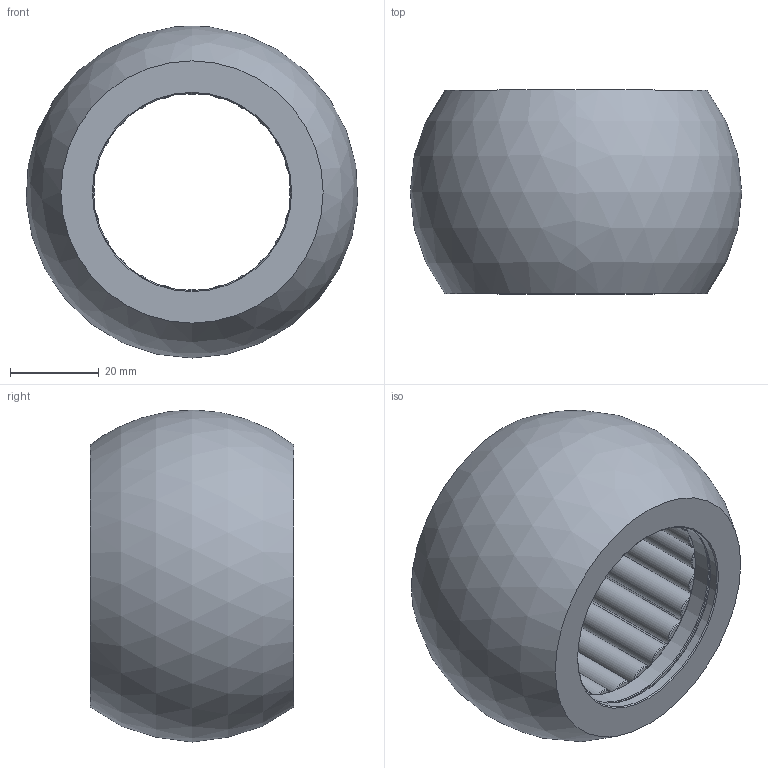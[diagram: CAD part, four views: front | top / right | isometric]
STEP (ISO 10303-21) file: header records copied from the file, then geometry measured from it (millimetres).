
FILE_DESCRIPTION(('STEP AP214'),'1');
FILE_NAME('C:/Projets/Serie 15.xx.xx/15.xx.44.step','2011-11-14T14:43:21',(' '),(' '),'Spatial InterOp 3D',' ',' ');
FILE_SCHEMA(('automotive_design'));
Length unit declared in the file: metre
Products named in the file (28): frette; rotule; @7679; @7684
Bounding box: 74.89 x 46 x 75 mm (x, y, z)
Volume: 95719.4 mm3; surface area: 60558.3 mm2
Topology: 28 solids, 28 shells, 350 faces, 662 edges, 420 vertices
Faces by surface type: cylinder 131, cone 110, plane 108, sphere 1
Full cylindrical faces by diameter (mm): 2.8 x48, 3.5 x48, 6 x24, 44.5 x2, 44.9 x2, 55.1 x2, 56 x3, 61 x2
Entity records: 10673 total; most frequent: DIRECTION 1504, CARTESIAN_POINT 1126, AXIS2_PLACEMENT_3D 752, EDGE_LOOP 748, ORIENTED_EDGE 748, FACE_OUTER_BOUND 482, EDGE_CURVE 374, VERTEX_POINT 374
